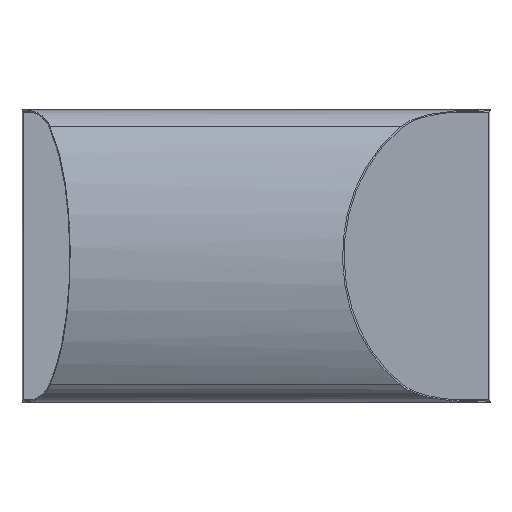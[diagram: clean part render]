
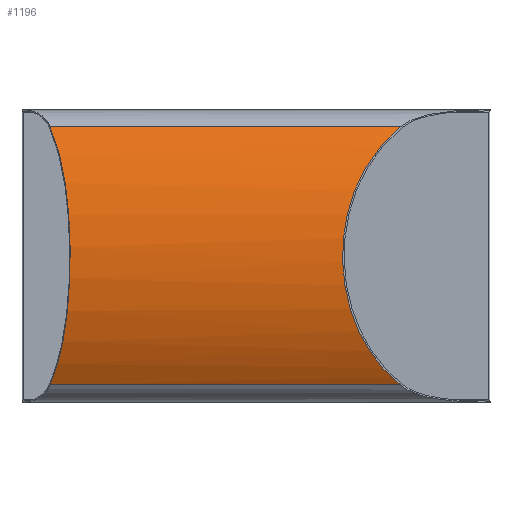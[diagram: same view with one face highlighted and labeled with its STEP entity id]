
A CAD part, top view. The second image highlights one B-rep face of the part: STEP entity #1196.
In plain terms, the highlighted cylindrical face has radius 216.558 mm (diameter 433.115 mm), a partial arc.
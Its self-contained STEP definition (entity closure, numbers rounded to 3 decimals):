
#28=B_SPLINE_CURVE_WITH_KNOTS('',3,(#2292,#2293,#2294,#2295,#2296,#2297,
#2298,#2299,#2300,#2301,#2302,#2303,#2304,#2305,#2306,#2307,#2308,#2309,
#2310,#2311,#2312,#2313,#2314,#2315,#2316,#2317,#2318,#2319,#2320,#2321),
 .UNSPECIFIED.,.F.,.F.,(4,2,2,2,2,2,2,2,2,2,2,2,2,2,4),(9.446,
10.636,12.409,14.181,16.102,18.022,
19.943,21.863,23.783,25.704,27.624,
29.544,31.317,33.09,34.28),
 .UNSPECIFIED.);
#29=B_SPLINE_CURVE_WITH_KNOTS('',3,(#2324,#2325,#2326,#2327,#2328,#2329,
#2330,#2331,#2332,#2333,#2334,#2335,#2336,#2337,#2338,#2339,#2340,#2341,
#2342,#2343,#2344,#2345,#2346,#2347,#2348,#2349),.UNSPECIFIED.,.F.,.F.,
(4,2,2,2,2,2,2,2,2,2,2,2,4),(-28.514,-28.047,-25.828,
-23.709,-21.59,-19.471,-17.352,
-15.233,-13.114,-10.995,-8.877,
-6.657,-6.191),.UNSPECIFIED.);
#211=FACE_OUTER_BOUND('',#281,.T.);
#281=EDGE_LOOP('',(#1024,#1025,#1026,#1027));
#389=LINE('',#2289,#493);
#390=LINE('',#2323,#494);
#493=VECTOR('',#1714,1.);
#494=VECTOR('',#1717,1.);
#596=VERTEX_POINT('',#2227);
#601=VERTEX_POINT('',#2272);
#602=VERTEX_POINT('',#2291);
#603=VERTEX_POINT('',#2322);
#749=EDGE_CURVE('',#596,#601,#389,.T.);
#750=EDGE_CURVE('',#602,#601,#28,.T.);
#751=EDGE_CURVE('',#603,#602,#390,.T.);
#752=EDGE_CURVE('',#603,#596,#29,.T.);
#1024=ORIENTED_EDGE('',*,*,#750,.F.);
#1025=ORIENTED_EDGE('',*,*,#751,.F.);
#1026=ORIENTED_EDGE('',*,*,#752,.T.);
#1027=ORIENTED_EDGE('',*,*,#749,.T.);
#1133=CYLINDRICAL_SURFACE('',#1400,216.558);
#1196=ADVANCED_FACE('',(#211),#1133,.T.);
#1400=AXIS2_PLACEMENT_3D('',#2290,#1715,#1716);
#1714=DIRECTION('',(0.,0.,-1.));
#1715=DIRECTION('center_axis',(0.,0.,1.));
#1716=DIRECTION('ref_axis',(-1.,0.,0.));
#1717=DIRECTION('',(0.,0.,-1.));
#2227=CARTESIAN_POINT('',(-25.819,110.277,375.955));
#2272=CARTESIAN_POINT('',(-25.819,110.277,76.731));
#2289=CARTESIAN_POINT('',(-25.819,110.277,0.));
#2290=CARTESIAN_POINT('Origin',(160.558,0.,0.));
#2291=CARTESIAN_POINT('',(-25.819,-110.277,76.731));
#2292=CARTESIAN_POINT('Ctrl Pts',(-25.819,-110.277,76.731));
#2293=CARTESIAN_POINT('Ctrl Pts',(-27.279,-107.81,79.706));
#2294=CARTESIAN_POINT('Ctrl Pts',(-28.74,-105.228,82.565));
#2295=CARTESIAN_POINT('Ctrl Pts',(-32.342,-98.527,89.366));
#2296=CARTESIAN_POINT('Ctrl Pts',(-34.465,-94.274,93.153));
#2297=CARTESIAN_POINT('Ctrl Pts',(-38.535,-85.344,100.113));
#2298=CARTESIAN_POINT('Ctrl Pts',(-40.482,-80.667,103.287));
#2299=CARTESIAN_POINT('Ctrl Pts',(-44.255,-70.572,109.238));
#2300=CARTESIAN_POINT('Ctrl Pts',(-46.159,-64.848,112.115));
#2301=CARTESIAN_POINT('Ctrl Pts',(-49.579,-52.721,117.136));
#2302=CARTESIAN_POINT('Ctrl Pts',(-51.094,-46.318,119.28));
#2303=CARTESIAN_POINT('Ctrl Pts',(-53.546,-33.188,122.692));
#2304=CARTESIAN_POINT('Ctrl Pts',(-54.483,-26.454,123.962));
#2305=CARTESIAN_POINT('Ctrl Pts',(-55.71,-13.06,125.616));
#2306=CARTESIAN_POINT('Ctrl Pts',(-56.,-6.401,126.));
#2307=CARTESIAN_POINT('Ctrl Pts',(-56.,6.401,126.));
#2308=CARTESIAN_POINT('Ctrl Pts',(-55.71,13.06,125.616));
#2309=CARTESIAN_POINT('Ctrl Pts',(-54.483,26.454,123.962));
#2310=CARTESIAN_POINT('Ctrl Pts',(-53.546,33.188,122.692));
#2311=CARTESIAN_POINT('Ctrl Pts',(-51.094,46.318,119.28));
#2312=CARTESIAN_POINT('Ctrl Pts',(-49.579,52.721,117.136));
#2313=CARTESIAN_POINT('Ctrl Pts',(-46.159,64.848,112.115));
#2314=CARTESIAN_POINT('Ctrl Pts',(-44.255,70.572,109.238));
#2315=CARTESIAN_POINT('Ctrl Pts',(-40.482,80.667,103.287));
#2316=CARTESIAN_POINT('Ctrl Pts',(-38.535,85.344,100.113));
#2317=CARTESIAN_POINT('Ctrl Pts',(-34.465,94.274,93.153));
#2318=CARTESIAN_POINT('Ctrl Pts',(-32.342,98.527,89.366));
#2319=CARTESIAN_POINT('Ctrl Pts',(-28.74,105.228,82.565));
#2320=CARTESIAN_POINT('Ctrl Pts',(-27.279,107.81,79.706));
#2321=CARTESIAN_POINT('Ctrl Pts',(-25.819,110.277,76.731));
#2322=CARTESIAN_POINT('',(-25.819,-110.277,375.955));
#2323=CARTESIAN_POINT('',(-25.819,-110.277,0.));
#2324=CARTESIAN_POINT('Ctrl Pts',(-25.819,-110.277,375.955));
#2325=CARTESIAN_POINT('Ctrl Pts',(-26.61,-108.94,375.375));
#2326=CARTESIAN_POINT('Ctrl Pts',(-27.389,-107.591,374.817));
#2327=CARTESIAN_POINT('Ctrl Pts',(-31.787,-99.779,371.723));
#2328=CARTESIAN_POINT('Ctrl Pts',(-35.094,-93.11,369.634));
#2329=CARTESIAN_POINT('Ctrl Pts',(-40.715,-80.211,366.3));
#2330=CARTESIAN_POINT('Ctrl Pts',(-43.301,-73.444,364.886));
#2331=CARTESIAN_POINT('Ctrl Pts',(-47.853,-59.307,362.531));
#2332=CARTESIAN_POINT('Ctrl Pts',(-49.818,-51.939,361.588));
#2333=CARTESIAN_POINT('Ctrl Pts',(-52.954,-36.992,360.133));
#2334=CARTESIAN_POINT('Ctrl Pts',(-54.126,-29.409,359.62));
#2335=CARTESIAN_POINT('Ctrl Pts',(-55.649,-14.444,358.96));
#2336=CARTESIAN_POINT('Ctrl Pts',(-56.,-7.063,358.813));
#2337=CARTESIAN_POINT('Ctrl Pts',(-56.,7.063,358.813));
#2338=CARTESIAN_POINT('Ctrl Pts',(-55.649,14.444,358.96));
#2339=CARTESIAN_POINT('Ctrl Pts',(-54.126,29.409,359.62));
#2340=CARTESIAN_POINT('Ctrl Pts',(-52.954,36.992,360.133));
#2341=CARTESIAN_POINT('Ctrl Pts',(-49.818,51.939,361.588));
#2342=CARTESIAN_POINT('Ctrl Pts',(-47.853,59.307,362.531));
#2343=CARTESIAN_POINT('Ctrl Pts',(-43.301,73.444,364.886));
#2344=CARTESIAN_POINT('Ctrl Pts',(-40.715,80.211,366.3));
#2345=CARTESIAN_POINT('Ctrl Pts',(-35.094,93.11,369.634));
#2346=CARTESIAN_POINT('Ctrl Pts',(-31.787,99.779,371.723));
#2347=CARTESIAN_POINT('Ctrl Pts',(-27.389,107.591,374.817));
#2348=CARTESIAN_POINT('Ctrl Pts',(-26.61,108.94,375.375));
#2349=CARTESIAN_POINT('Ctrl Pts',(-25.819,110.277,375.955));
